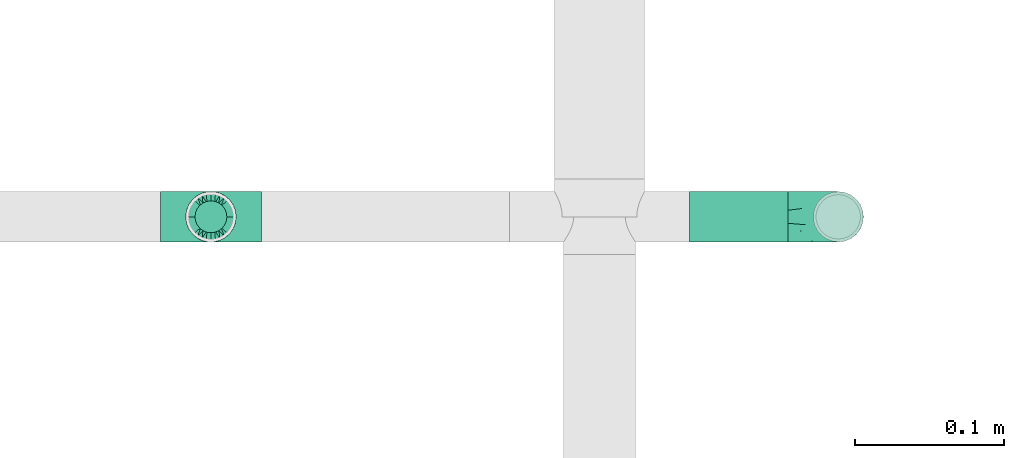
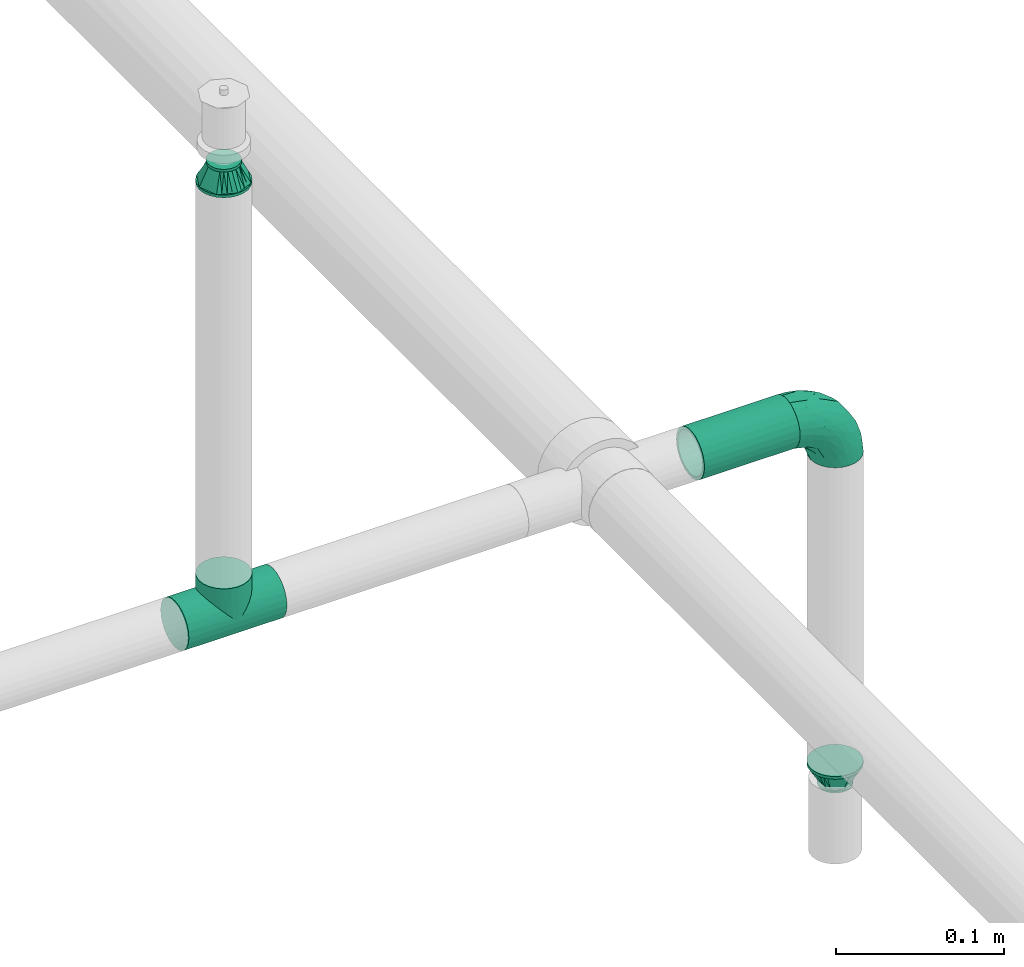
# One storey, part 100 of 157: 4 flow fittings, 1 flow segment.
"""IFC2X3 building model written with IfcOpenShell, lengths in millimetres."""

from ifc_helpers import new_model, entity, si_unit, converted_unit, derived_unit, direction, frame, origin_with_axes, origin_2d_with_axis, place, context, subcontext, project, spatial, hollow_circle, extrude, open_shell, surface_model, source, transform, mapped, type_object, element, save


model = new_model("IFC2X3")

# Units and contexts
model_context = context("Model", 3, precision=0.01, world=frame((0.0, 4.29681676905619e-09, 0.0)), true_north=direction((4.01073788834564e-13, 1.0)))
plan_context = context("Plan", 3, precision=0.01, world=frame((0.0, 4.29681676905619e-09, 0.0)), true_north=direction((4.01073788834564e-13, 1.0)))
body_context = subcontext(model_context, "Body", "Model", "MODEL_VIEW")
ifc_project = project(units=[converted_unit("PLANEANGLEUNIT", "DEGREE", entity("IfcPositiveLengthMeasure", 0.0174532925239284), si_unit("PLANEANGLEUNIT", "RADIAN"), dimensions=[0, 0, 0, 0, 0, 0, 0]), si_unit("AREAUNIT", "SQUARE_METRE"), si_unit("LENGTHUNIT", "METRE", prefix="MILLI"), si_unit("MASSUNIT", "GRAM", prefix="KILO"), si_unit("POWERUNIT", "WATT"), si_unit("PRESSUREUNIT", "PASCAL"), si_unit("FORCEUNIT", "NEWTON", prefix="KILO"), si_unit("ELECTRICCURRENTUNIT", "AMPERE"), si_unit("THERMODYNAMICTEMPERATUREUNIT", "DEGREE_CELSIUS"), si_unit("TIMEUNIT", "SECOND"), si_unit("VOLUMEUNIT", "CUBIC_METRE"), derived_unit("LINEARVELOCITYUNIT", [(si_unit("LENGTHUNIT", "METRE"), 1), (si_unit("TIMEUNIT", "SECOND"), -1)]), derived_unit("VOLUMETRICFLOWRATEUNIT", [(si_unit("VOLUMEUNIT", "CUBIC_METRE"), 1), (si_unit("TIMEUNIT", "SECOND"), -1)]), derived_unit("THERMALTRANSMITTANCEUNIT", [(si_unit("POWERUNIT", "WATT"), 1), (si_unit("THERMODYNAMICTEMPERATUREUNIT", "KELVIN"), -1), (si_unit("AREAUNIT", "SQUARE_METRE"), -1)])], contexts=[model_context, plan_context])

# Site, building, storey
site_placement = place(None, frame((0.0, -4.29681676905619e-09, 0.0), z_axis=(0.0, 0.0, 1.0), x_axis=(1.0, 0.0, 0.0)))
site = spatial("IfcSite", under=ifc_project, at=site_placement, CompositionType="ELEMENT")
building_placement = place(site_placement, frame((0.0, 4.29681676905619e-09, 0.0), z_axis=(0.0, 0.0, 1.0), x_axis=(1.0, 0.0, 0.0)))
building = spatial("IfcBuilding", under=site, at=building_placement, Name="mc-building", CompositionType="ELEMENT")
storey_placement = place(building_placement, frame((0.0, 0.0, 204000.0), z_axis=(0.0, 0.0, 1.0), x_axis=(1.0, 0.0, 0.0)))
storey = spatial("IfcBuildingStorey", under=building, at=storey_placement, Name="Nivå D", CompositionType="ELEMENT", Elevation=204000.0)

# Flow fittings
pipe_fitting_type_1 = type_object("IfcPipeFittingType", Name="magi_pipe_fe_tee_centric_90_NOR", PredefinedType="JUNCTION")
shared_shape_1 = source(origin_with_axes(), body_context, "Body", "SurfaceModel", [
    surface_model("IfcShellBasedSurfaceModel", [(-33.8, 4.37404, -16.32415), (-33.8, 0.0, -16.9), (-33.8, 16.32415, -4.37404), (-33.8, 8.45, -14.63583), (-33.8, 11.9501, -11.9501), (-33.8, 14.63583, -8.45), (-33.8, -16.9, 0.0), (-33.8, -11.9501, -11.9501), (-33.8, -14.63583, -8.45), (-33.8, -8.45, -14.63583), (-33.8, -4.37404, -16.32415), (-33.8, -16.32415, -4.37404), (-33.8, 14.63583, 8.45), (-33.8, 16.32415, 4.37404), (-33.8, -8.45, 14.63583), (-33.8, 8.45, 14.63583), (-33.8, 11.9501, 11.9501), (-33.8, 4.37404, 16.32415), (-33.8, 0.0, 16.9), (-33.8, -11.9501, 11.9501), (-33.8, -14.63583, 8.45), (-33.8, -16.32415, 4.37404), (-33.8, -4.37404, 16.32415), (-33.8, 16.9, 0.0), (33.8, 4.37404, -16.32415), (33.8, -16.9, 0.0), (33.8, 0.0, -16.9), (33.8, 14.63583, -8.45), (33.8, 8.45, -14.63583), (33.8, 16.32415, -4.37404), (33.8, 11.9501, -11.9501), (33.8, -16.32415, 4.37404), (33.8, -8.45, -14.63583), (33.8, -4.37404, -16.32415), (33.8, -11.9501, -11.9501), (33.8, -14.63583, -8.45), (33.8, -16.32415, -4.37404), (33.8, 16.32415, 4.37404), (33.8, 8.45, 14.63583), (33.8, 14.63583, 8.45), (33.8, 11.9501, 11.9501), (33.8, -8.45, 14.63583), (33.8, 4.37404, 16.32415), (33.8, -14.63583, 8.45), (33.8, -11.9501, 11.9501), (33.8, 0.0, 16.9), (33.8, -4.37404, 16.32415), (33.8, 16.9, 0.0), (16.28698, -16.28698, 4.51047), (16.9, -16.9, 0.0), (14.62704, -14.62704, 8.4652), (9.47213, -9.47213, 13.99602), (12.26343, -12.26343, 11.62834), (-16.9, -16.9, 0.0), (-16.28698, -16.28698, 4.51047), (-14.62704, -14.62704, 8.4652), (-12.26343, -12.26343, 11.62834), (-9.47213, -9.47213, 13.99602), (-6.42894, -6.42894, 15.62942), (6.42894, -6.42894, 15.62942), (3.24522, -3.24522, 16.58549), (0.0, 0.0, 16.9), (-3.24522, -3.24522, 16.58549), (3.24522, -3.24522, -16.58549), (0.0, 0.0, -16.9), (-3.24522, -3.24522, -16.58549), (-6.42894, -6.42894, -15.62942), (6.42894, -6.42894, -15.62942), (9.47213, -9.47213, -13.99602), (12.26343, -12.26343, -11.62834), (14.62704, -14.62704, -8.4652), (16.28698, -16.28698, -4.51047), (-9.47213, -9.47213, -13.99602), (-12.26343, -12.26343, -11.62834), (-16.28698, -16.28698, -4.51047), (-14.62704, -14.62704, -8.4652), (4.37404, -25.35, -16.32415), (-16.9, -25.35, 0.0), (0.0, -25.35, -16.9), (14.63583, -25.35, -8.45), (8.45, -25.35, -14.63583), (16.32415, -25.35, -4.37404), (11.9501, -25.35, -11.9501), (-11.9501, -25.35, -11.9501), (-8.45, -25.35, -14.63583), (-4.37404, -25.35, -16.32415), (-14.63583, -25.35, -8.45), (-16.32415, -25.35, -4.37404), (16.9, -25.35, 0.0), (8.45, -25.35, 14.63583), (16.32415, -25.35, 4.37404), (14.63583, -25.35, 8.45), (-8.45, -25.35, 14.63583), (11.9501, -25.35, 11.9501), (4.37404, -25.35, 16.32415), (-16.32415, -25.35, 4.37404), (-11.9501, -25.35, 11.9501), (-14.63583, -25.35, 8.45), (0.0, -25.35, 16.9), (-4.37404, -25.35, 16.32415)], [open_shell([[[0, 1, 2]], [[3, 0, 4]], [[0, 2, 5]], [[4, 0, 5]], [[6, 2, 1]], [[7, 8, 9]], [[1, 10, 9]], [[11, 6, 8]], [[1, 9, 8]], [[1, 8, 6]], [[6, 12, 2]], [[12, 13, 2]], [[14, 12, 6]], [[12, 14, 15]], [[16, 12, 15]], [[17, 15, 18]], [[19, 14, 20]], [[21, 20, 14]], [[22, 18, 14]], [[14, 6, 21]], [[14, 18, 15]], [[23, 2, 13]], [[24, 25, 26]], [[27, 24, 28]], [[27, 29, 24]], [[27, 28, 30]], [[31, 25, 24]], [[26, 32, 33]], [[26, 34, 32]], [[35, 25, 36]], [[35, 34, 26]], [[25, 35, 26]], [[24, 29, 31]], [[29, 37, 38]], [[38, 37, 39]], [[38, 31, 29]], [[38, 39, 40]], [[41, 38, 42]], [[43, 41, 44]], [[41, 43, 31]], [[41, 45, 46]], [[41, 31, 38]], [[42, 45, 41]], [[29, 47, 37]], [[31, 43, 48]], [[25, 31, 49]], [[49, 31, 48]], [[43, 50, 48]], [[44, 41, 51]], [[50, 43, 52]], [[51, 52, 44]], [[52, 43, 44]], [[53, 54, 21]], [[53, 21, 6]], [[21, 54, 20]], [[54, 55, 20]], [[56, 57, 19]], [[19, 20, 56]], [[19, 57, 14]], [[56, 20, 55]], [[14, 57, 58]], [[51, 41, 59]], [[60, 45, 61]], [[59, 46, 60]], [[46, 59, 41]], [[60, 46, 45]], [[61, 45, 42]], [[39, 37, 13]], [[16, 38, 40]], [[12, 40, 39]], [[42, 38, 15]], [[23, 37, 47]], [[62, 61, 18]], [[62, 22, 58]], [[22, 62, 18]], [[58, 22, 14]], [[61, 17, 18]], [[42, 17, 61]], [[15, 17, 42]], [[15, 38, 16]], [[12, 16, 40]], [[13, 12, 39]], [[37, 23, 13]], [[5, 27, 30]], [[23, 47, 29]], [[30, 28, 3]], [[27, 2, 29]], [[26, 33, 63]], [[26, 64, 24]], [[64, 26, 63]], [[28, 24, 0]], [[64, 0, 24]], [[4, 30, 3]], [[2, 27, 5]], [[5, 30, 4]], [[2, 23, 29]], [[65, 66, 10]], [[1, 0, 64]], [[1, 65, 10]], [[66, 9, 10]], [[0, 3, 28]], [[1, 64, 65]], [[63, 33, 67]], [[32, 34, 68]], [[69, 68, 34]], [[35, 70, 69]], [[69, 34, 35]], [[32, 68, 67]], [[36, 25, 49]], [[36, 71, 35]], [[71, 36, 49]], [[35, 71, 70]], [[72, 9, 66]], [[72, 7, 9]], [[7, 72, 73]], [[7, 73, 8]], [[74, 53, 11]], [[75, 74, 8]], [[74, 11, 8]], [[11, 53, 6]], [[75, 8, 73]], [[32, 67, 33]], [[76, 77, 78]], [[79, 76, 80]], [[79, 81, 76]], [[79, 80, 82]], [[77, 76, 81]], [[78, 83, 84]], [[84, 85, 78]], [[86, 77, 87]], [[83, 78, 86]], [[77, 86, 78]], [[81, 88, 77]], [[89, 88, 90]], [[89, 90, 91]], [[92, 77, 89]], [[89, 91, 93]], [[92, 89, 94]], [[95, 96, 97]], [[96, 95, 92]], [[92, 98, 99]], [[95, 77, 92]], [[94, 98, 92]], [[89, 77, 88]], [[77, 95, 53]], [[54, 53, 95]], [[97, 96, 56]], [[96, 92, 57]], [[95, 97, 54]], [[58, 92, 99]], [[55, 54, 97]], [[56, 55, 97]], [[58, 57, 92]], [[98, 61, 62]], [[58, 99, 62]], [[56, 96, 57]], [[62, 99, 98]], [[94, 60, 98]], [[89, 59, 94]], [[91, 90, 48]], [[52, 93, 91]], [[93, 51, 89]], [[49, 90, 88]], [[59, 60, 94]], [[51, 59, 89]], [[49, 48, 90]], [[50, 52, 91]], [[48, 50, 91]], [[51, 93, 52]], [[98, 60, 61]], [[88, 81, 49]], [[71, 49, 81]], [[79, 82, 69]], [[82, 80, 68]], [[81, 79, 71]], [[67, 80, 76]], [[70, 71, 79]], [[69, 70, 79]], [[67, 68, 80]], [[78, 64, 63]], [[67, 76, 63]], [[69, 82, 68]], [[63, 76, 78]], [[85, 65, 78]], [[84, 66, 85]], [[86, 87, 74]], [[86, 73, 83]], [[72, 84, 83]], [[53, 87, 77]], [[66, 65, 85]], [[72, 66, 84]], [[53, 74, 87]], [[75, 73, 86]], [[74, 75, 86]], [[72, 83, 73]], [[78, 65, 64]]])]),
])
flow_fitting_1_placement = place(storey_placement, frame((530839.775, 410800.0, 2690.0), z_axis=(0.0, 1.0, 0.0), x_axis=(1.0, 0.0, 0.0)))
element("IfcFlowFitting", 1, at=flow_fitting_1_placement, inside=storey, type_object=pipe_fitting_type_1, Name="magi_pipe_fe_tee_centric_90_NOR", context=body_context, shape_type="MappedRepresentation", body=[
    mapped(shared_shape_1, transform((0.0, 0.0, 0.0), scale=1.0)),
])
pipe_fitting_type_2 = type_object("IfcPipeFittingType", Name="magi_pipe_fe_reducer_centric_short_NOR", PredefinedType="TRANSITION")
shared_shape_2 = source(origin_with_axes(), body_context, "Body", "SurfaceModel", [
    surface_model("IfcShellBasedSurfaceModel", [(14.4, 5.35, -9.26647), (14.4, 0.0, -10.7), (14.4, 2.76936, -10.33541), (14.4, 10.33541, -2.76936), (14.4, 7.56604, -7.56604), (14.4, -10.33541, -2.76936), (14.4, 9.26647, -5.35), (14.4, 0.0, 10.7), (14.4, -5.35, -9.26647), (14.4, -2.76936, -10.33541), (14.4, -7.56604, -7.56604), (14.4, -9.26647, -5.35), (14.4, 10.7, 0.0), (14.4, 10.33541, 2.76936), (14.4, 9.26647, 5.35), (14.4, 7.56604, 7.56604), (14.4, 2.76936, 10.33541), (14.4, 5.35, 9.26647), (14.4, -10.33541, 2.76936), (14.4, -7.56604, 7.56604), (14.4, -9.26647, 5.35), (14.4, -10.7, 0.0), (14.4, -2.76936, 10.33541), (14.4, -5.35, 9.26647), (12.4, 2.76936, 10.33541), (12.4, -10.33541, -2.76936), (12.4, 0.0, 10.7), (12.4, 5.35, 9.26647), (12.4, 7.56604, 7.56604), (12.4, 9.26647, 5.35), (12.4, 10.33541, 2.76936), (12.4, -10.33541, 2.76936), (12.4, -2.76936, 10.33541), (12.4, -7.56604, 7.56604), (12.4, -5.35, 9.26647), (12.4, -9.26647, 5.35), (12.4, -10.7, 0.0), (12.4, 10.33541, -2.76936), (12.4, 5.35, -9.26647), (12.4, 9.26647, -5.35), (12.4, 7.56604, -7.56604), (12.4, 2.76936, -10.33541), (12.4, -9.26647, -5.35), (12.4, -5.35, -9.26647), (12.4, -7.56604, -7.56604), (12.4, 0.0, -10.7), (12.4, -2.76936, -10.33541), (12.4, 10.7, 0.0), (-2.0, 11.9501, 11.9501), (-2.0, 0.0, 16.9), (-2.0, 4.37404, 16.32415), (-2.0, 8.45, 14.63583), (-2.0, 14.63583, 8.45), (-2.0, 16.32415, 4.37404), (-2.0, -16.32415, 4.37404), (-2.0, -8.45, 14.63583), (-2.0, -14.63583, 8.45), (-2.0, -11.9501, 11.9501), (-2.0, -4.37404, 16.32415), (-2.0, -16.32415, -4.37404), (-2.0, -16.9, 0.0), (-2.0, -8.45, -14.63583), (-2.0, 16.32415, -4.37404), (-2.0, 11.9501, -11.9501), (-2.0, 14.63583, -8.45), (-2.0, 8.45, -14.63583), (-2.0, 4.37404, -16.32415), (-2.0, 0.0, -16.9), (-2.0, -11.9501, -11.9501), (-2.0, -14.63583, -8.45), (-2.0, -4.37404, -16.32415), (-2.0, 16.9, 0.0), (0.0, 4.37404, -16.32415), (0.0, 8.45, -14.63583), (0.0, 11.9501, -11.9501), (0.0, 0.0, -16.9), (0.0, 16.32415, -4.37404), (0.0, 16.32415, 4.37404), (0.0, 14.63583, -8.45), (0.0, -8.45, -14.63583), (0.0, -4.37404, -16.32415), (0.0, -11.9501, -11.9501), (0.0, -16.32415, -4.37404), (0.0, -14.63583, -8.45), (0.0, -16.32415, 4.37404), (0.0, 16.9, 0.0), (0.0, 14.63583, 8.45), (0.0, 11.9501, 11.9501), (0.0, 4.37404, 16.32415), (0.0, 8.45, 14.63583), (0.0, 0.0, 16.9), (0.0, -14.63583, 8.45), (0.0, -16.9, 0.0), (0.0, -8.45, 14.63583), (0.0, -11.9501, 11.9501), (0.0, -4.37404, 16.32415), (12.4, 9.3625, -2.31662), (0.0, 14.42505, -5.97505), (0.0, 15.66253, -2.98753), (12.4, -6.6875, -6.94985), (0.0, -13.18758, -8.96258), (0.0, 2.98753, -15.66253), (12.4, 0.0, -9.26647), (12.4, 6.6875, -6.94985), (0.0, 8.96258, -13.18758), (12.4, -9.3625, -2.31662), (0.0, -15.66253, -2.98753), (0.0, -14.42505, -5.97505), (0.0, 5.97505, -14.42505), (0.0, -2.98753, -15.66253), (0.0, -8.96258, -13.18758), (0.0, 13.18758, -8.96258), (12.4, 8.025, -4.63324), (12.4, -2.675, -9.26647), (12.4, 2.675, -9.26647), (0.0, -5.97505, -14.42505), (12.4, -8.025, -4.63324), (12.4, -9.3625, 2.31662), (0.0, -14.42505, 5.97505), (0.0, -15.66253, 2.98753), (12.4, 6.6875, 6.94985), (0.0, 13.18758, 8.96258), (0.0, -2.98753, 15.66253), (12.4, 0.0, 9.26647), (12.4, -6.6875, 6.94985), (0.0, -8.96258, 13.18758), (12.4, 9.3625, 2.31662), (0.0, 15.66253, 2.98753), (0.0, 14.42505, 5.97505), (0.0, -5.97505, 14.42505), (0.0, 2.98753, 15.66253), (0.0, 8.96258, 13.18758), (0.0, -13.18758, 8.96258), (12.4, -8.025, 4.63324), (12.4, 2.675, 9.26647), (12.4, -2.675, 9.26647), (0.0, 5.97505, 14.42505), (12.4, 8.025, 4.63324)], [open_shell([[[0, 1, 2]], [[3, 0, 4]], [[5, 0, 3]], [[3, 4, 6]], [[7, 5, 3]], [[1, 8, 9]], [[1, 0, 8]], [[10, 5, 11]], [[5, 10, 8]], [[0, 5, 8]], [[3, 12, 13]], [[13, 14, 15]], [[13, 15, 16]], [[7, 3, 16]], [[16, 15, 17]], [[7, 18, 5]], [[18, 19, 20]], [[21, 5, 18]], [[19, 22, 23]], [[22, 19, 18]], [[7, 22, 18]], [[13, 16, 3]], [[24, 25, 26]], [[27, 25, 24]], [[28, 29, 30]], [[28, 25, 27]], [[31, 26, 25]], [[32, 33, 34]], [[33, 32, 31]], [[33, 31, 35]], [[32, 26, 31]], [[31, 25, 36]], [[30, 37, 28]], [[25, 28, 37]], [[38, 37, 39]], [[37, 38, 25]], [[38, 39, 40]], [[41, 25, 38]], [[42, 43, 44]], [[43, 42, 25]], [[43, 45, 46]], [[43, 25, 41]], [[41, 45, 43]], [[37, 30, 47]], [[25, 5, 36]], [[42, 11, 25]], [[8, 44, 43]], [[42, 44, 10]], [[9, 43, 46]], [[25, 11, 5]], [[5, 21, 36]], [[9, 8, 43]], [[10, 44, 8]], [[10, 11, 42]], [[1, 9, 46]], [[46, 45, 1]], [[41, 2, 45]], [[38, 0, 41]], [[6, 40, 39]], [[38, 40, 4]], [[3, 39, 37]], [[38, 4, 0]], [[0, 2, 41]], [[12, 3, 37]], [[6, 39, 3]], [[6, 4, 40]], [[47, 12, 37]], [[45, 2, 1]], [[30, 13, 47]], [[29, 14, 30]], [[17, 28, 27]], [[29, 28, 15]], [[16, 27, 24]], [[30, 14, 13]], [[13, 12, 47]], [[16, 17, 27]], [[15, 28, 17]], [[15, 14, 29]], [[7, 16, 24]], [[24, 26, 7]], [[32, 22, 26]], [[34, 23, 32]], [[20, 33, 35]], [[34, 33, 19]], [[18, 35, 31]], [[34, 19, 23]], [[23, 22, 32]], [[21, 18, 31]], [[20, 35, 18]], [[20, 19, 33]], [[36, 21, 31]], [[26, 22, 7]], [[48, 49, 50]], [[48, 50, 51]], [[48, 52, 53]], [[48, 53, 49]], [[49, 53, 54]], [[55, 56, 57]], [[55, 58, 49]], [[56, 55, 49]], [[49, 54, 56]], [[54, 59, 60]], [[54, 53, 61]], [[53, 62, 63]], [[63, 62, 64]], [[63, 65, 66]], [[61, 53, 63]], [[67, 63, 66]], [[59, 68, 69]], [[68, 59, 61]], [[61, 67, 70]], [[59, 54, 61]], [[63, 67, 61]], [[53, 71, 62]], [[72, 73, 74]], [[75, 72, 74]], [[74, 76, 77]], [[76, 74, 78]], [[74, 77, 79]], [[75, 79, 80]], [[75, 74, 79]], [[81, 82, 83]], [[82, 81, 79]], [[79, 84, 82]], [[77, 76, 85]], [[77, 86, 87]], [[77, 87, 88]], [[88, 84, 79]], [[88, 87, 89]], [[84, 88, 90]], [[90, 91, 84]], [[92, 82, 84]], [[91, 93, 94]], [[91, 90, 93]], [[93, 90, 95]], [[79, 77, 88]], [[59, 82, 60]], [[69, 83, 59]], [[79, 68, 61]], [[69, 68, 81]], [[80, 61, 70]], [[59, 83, 82]], [[82, 92, 60]], [[80, 79, 61]], [[81, 68, 79]], [[81, 83, 69]], [[75, 80, 70]], [[70, 67, 75]], [[66, 72, 67]], [[65, 73, 66]], [[78, 63, 64]], [[65, 63, 74]], [[76, 64, 62]], [[65, 74, 73]], [[73, 72, 66]], [[85, 76, 62]], [[78, 64, 76]], [[78, 74, 63]], [[71, 85, 62]], [[67, 72, 75]], [[53, 77, 71]], [[52, 86, 53]], [[89, 48, 51]], [[52, 48, 87]], [[88, 51, 50]], [[53, 86, 77]], [[77, 85, 71]], [[88, 89, 51]], [[87, 48, 89]], [[87, 86, 52]], [[90, 88, 50]], [[50, 49, 90]], [[58, 95, 49]], [[55, 93, 58]], [[91, 57, 56]], [[55, 57, 94]], [[84, 56, 54]], [[55, 94, 93]], [[93, 95, 58]], [[92, 84, 54]], [[91, 56, 84]], [[91, 94, 57]], [[60, 92, 54]], [[49, 95, 90]], [[27, 34, 47]], [[47, 34, 43]], [[43, 38, 47]], [[43, 34, 36]], [[90, 87, 94]], [[92, 94, 87]], [[87, 74, 92]], [[75, 92, 74]], [[81, 92, 75]], [[74, 87, 85]], [[96, 97, 98]], [[81, 99, 100]], [[101, 102, 75]], [[98, 85, 47]], [[74, 103, 104]], [[104, 103, 38]], [[105, 106, 107]], [[38, 108, 104]], [[102, 109, 75]], [[110, 99, 81]], [[47, 96, 98]], [[103, 111, 112]], [[109, 102, 113]], [[36, 92, 106]], [[102, 101, 114]], [[110, 115, 43]], [[96, 112, 97]], [[107, 116, 105]], [[36, 106, 105]], [[113, 115, 109]], [[43, 115, 113]], [[116, 107, 100]], [[108, 38, 114]], [[111, 103, 74]], [[111, 97, 112]], [[99, 110, 43]], [[116, 100, 99]], [[101, 108, 114]], [[117, 118, 119]], [[87, 120, 121]], [[122, 123, 90]], [[119, 92, 36]], [[94, 124, 125]], [[125, 124, 34]], [[126, 127, 128]], [[34, 129, 125]], [[123, 130, 90]], [[131, 120, 87]], [[36, 117, 119]], [[124, 132, 133]], [[130, 123, 134]], [[47, 85, 127]], [[123, 122, 135]], [[131, 136, 27]], [[117, 133, 118]], [[128, 137, 126]], [[47, 127, 126]], [[134, 136, 130]], [[27, 136, 134]], [[137, 128, 121]], [[129, 34, 135]], [[132, 124, 94]], [[132, 118, 133]], [[120, 131, 27]], [[137, 121, 120]], [[122, 129, 135]]])]),
])
for number, where, z_axis, x_axis, name in (
    (2, (531260.79653, 410800.0, 2429.35200000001), (1.0, 0.0, 0.0), (0.0, 0.0, -1.0), "magi_pipe_fe_reducer_centric_short_NOR"),
    (3, (530839.775, 410800.0, 3002.14799999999), (0.0, -1.0, 0.0), (0.0, 0.0, 1.0), "magi_pipe_fe_reducer_centric_short_NOR"),
):
    element("IfcFlowFitting", number, at=place(storey_placement, frame(where, z_axis=z_axis, x_axis=x_axis)), inside=storey, type_object=pipe_fitting_type_2, Name=name, context=body_context, shape_type="MappedRepresentation", body=[
        mapped(shared_shape_2, transform((0.0, 0.0, 0.0), scale=1.0)),
    ])
pipe_fitting_type_3 = type_object("IfcPipeFittingType", Name="magi_pipe_fe_elbow_short_001", PredefinedType="BEND")
shared_shape_3 = source(origin_with_axes(), body_context, "Body", "SurfaceModel", [
    surface_model("IfcShellBasedSurfaceModel", [(-33.8, 8.45, -14.63583), (-33.8, 4.37404, -16.32415), (-33.8, 11.9501, -11.9501), (-33.8, -11.9501, -11.9501), (-33.8, -14.63583, -8.45), (-33.8, -8.45, -14.63583), (-33.8, 0.0, -16.9), (-33.8, -4.37404, -16.32415), (-33.8, -4.37404, 16.32415), (-33.8, 0.0, 16.9), (-33.8, -8.45, 14.63583), (-33.8, 16.32415, -4.37404), (-33.8, 14.63583, -8.45), (-33.8, -16.32415, -4.37404), (-33.8, -16.9, 0.0), (-33.8, -16.32415, 4.37404), (-33.8, 11.9501, 11.9501), (-33.8, 14.63583, 8.45), (-33.8, 16.32415, 4.37404), (-33.8, 4.37404, 16.32415), (-33.8, 8.45, 14.63583), (-33.8, -14.63583, 8.45), (-33.8, -11.9501, 11.9501), (-33.8, 16.9, 0.0), (-11.9501, 33.8, -11.9501), (0.0, 33.8, -16.9), (-4.37404, 33.8, -16.32415), (-8.45, 33.8, -14.63583), (-14.63583, 33.8, -8.45), (-16.32415, 33.8, -4.37404), (14.63583, 33.8, -8.45), (8.45, 33.8, 14.63583), (16.32415, 33.8, -4.37404), (8.45, 33.8, -14.63583), (11.9501, 33.8, -11.9501), (4.37404, 33.8, -16.32415), (16.32415, 33.8, 4.37404), (16.9, 33.8, 0.0), (-11.9501, 33.8, 11.9501), (-16.32415, 33.8, 4.37404), (-14.63583, 33.8, 8.45), (-8.45, 33.8, 14.63583), (-4.37404, 33.8, 16.32415), (11.9501, 33.8, 11.9501), (14.63583, 33.8, 8.45), (0.0, 33.8, 16.9), (4.37404, 33.8, 16.32415), (-16.9, 33.8, 0.0), (-24.79389, -13.12945, 9.48721), (-22.19287, -9.75018, 12.59315), (-24.09897, -14.97035, 0.0), (-14.93934, -10.76256, 8.5297), (-22.46095, -14.75051, 5.27077), (14.75051, 22.46094, 5.27077), (11.9251, 13.23888, 4.33236), (13.04069, 14.39795, 0.0), (7.71387, 13.68847, 11.55891), (9.75018, 22.19287, 12.59315), (4.10169, 13.0571, 14.04018), (-24.84007, -6.39063, 15.2048), (-25.81779, -2.23879, 16.61097), (-23.66549, 2.59054, 16.87119), (-26.50418, 14.06512, 11.08152), (-24.21253, 17.66365, 7.72657), (-29.58514, 15.86957, 7.00283), (-6.17382, -7.5455, 0.0), (-13.23888, -11.9251, 4.33236), (-14.39795, -13.04069, 0.0), (-17.81434, 18.87373, 11.97104), (-6.30846, 29.15138, 15.82987), (-2.31622, 25.28002, 16.85849), (-29.23923, 10.23435, 13.77053), (-1.45439, -2.85688, 7.61475), (-0.28326, 0.34872, 10.09509), (-5.74484, -4.04709, 10.4122), (-4.41137, 11.31918, 16.59407), (-8.39727, 3.10034, 15.7812), (-1.72649, 9.1306, 15.53089), (-17.39909, 24.75344, 7.64977), (-26.19233, 20.0512, 0.0), (-28.14518, 17.29657, 4.25857), (-26.05147, 6.6281, 15.96447), (-5.87354, 16.61944, 16.86968), (-12.51807, 12.51807, 16.48937), (-10.06312, 7.38516, 16.81295), (-3.01882, 3.01882, 13.81718), (-13.0571, -4.10169, 14.04018), (-16.82553, -0.15166, 16.38038), (10.76256, 14.93934, 8.5297), (13.12945, 24.79389, 9.48721), (6.39063, 24.84007, 15.2048), (2.23879, 25.81779, 16.61097), (-13.68847, -7.71387, 11.55891), (14.97035, 24.09897, 0.0), (-7.30894, 22.89991, 16.09489), (-10.67958, 26.17414, 14.008), (-12.78295, 18.26924, 15.06066), (-13.88562, 22.45231, 12.93244), (-18.04944, 15.16501, 14.04434), (-23.11658, 20.08178, 4.02986), (-21.84989, 21.84989, 0.0), (-18.55817, 25.48277, 3.93065), (-13.95142, 26.94732, 11.03289), (-18.57098, 7.23906, 16.59756), (-16.58335, 4.14122, 16.89279), (-17.96666, 11.46709, 15.63151), (-9.84453, 17.54304, 16.18938), (0.15166, 16.82553, 16.38038), (-23.27207, 11.47201, 14.23154), (3.84842, 5.86994, 10.70473), (-8.0212, -7.54413, 7.93275), (1.00345, -2.19508, 4.57414), (5.13203, 3.01004, 5.90201), (5.24161, 1.7543, 2.53265), (8.70457, 7.04947, 3.99182), (-20.0512, 26.19233, 0.0), (8.4852, 8.76699, 7.09296), (-4.55488, -6.72064, 4.90681), (2.05031, -2.05031, 0.0), (7.5455, 6.17382, 0.0), (-26.75399, 2.1369, -16.845), (-14.61995, 24.73803, -11.27736), (-28.45274, -13.45335, -9.81895), (-26.00469, 6.63555, -15.96645), (-23.06726, 20.04573, -4.26202), (-13.80647, -4.26506, -14.17873), (-14.67501, -0.21081, -16.07388), (-6.7902, -0.2828, -13.8478), (-24.53586, 11.08096, -14.13417), (-26.72048, 14.00837, -11.05776), (10.0967, 24.44989, -12.75976), (5.83237, 21.40218, -15.03047), (6.66249, 28.54238, -15.38093), (-20.38182, 15.48705, -12.74596), (12.53268, 21.23441, -9.15363), (12.54494, 15.67504, -5.54878), (9.7522, 12.89279, -8.66343), (-15.65186, 19.64213, -13.01327), (-12.03528, 20.66498, -14.67665), (-15.61907, 15.61906, -14.83879), (-25.56551, -15.26206, 0.0), (-24.65452, -15.12934, -5.50955), (13.45335, 28.45274, -9.81895), (15.12934, 24.65452, -5.50955), (-7.35442, -8.31014, -5.65563), (-15.67504, -12.54494, -5.54878), (-24.44989, -10.0967, -12.75976), (0.16522, 0.41303, -9.71728), (-5.70658, -5.33066, -8.89288), (-5.13869, -2.37198, -11.53565), (-21.23441, -12.53268, -9.15363), (0.71146, 7.93863, -14.09382), (0.21081, 14.67501, -16.07388), (3.49291, 14.42772, -14.76381), (-24.89911, -2.13088, -16.591), (-28.54238, -6.66249, -15.38093), (-18.44386, -7.71663, -13.26957), (2.13088, 24.89911, -16.591), (-28.64342, 17.44413, -2.89318), (1.70017, -1.28722, -5.09504), (-16.57067, 26.81947, -7.36596), (-17.69055, 27.4263, -3.76405), (-12.89279, -9.7522, -8.66343), (-5.96611, 5.96611, -15.95814), (-20.53709, 20.09345, -8.28985), (-2.1369, 26.75399, -16.845), (-6.89872, 24.58781, -16.02578), (-10.60739, 26.53157, -13.98044), (-21.40218, -5.83237, -15.03047), (2.93192, 5.89627, -11.55917), (6.89393, 12.61842, -11.82233), (5.58056, 5.95325, -8.79455), (-3.99512, 18.61798, -16.89635), (8.31014, 7.35442, -5.65563), (-9.1383, 9.86148, -16.89041), (-9.99983, 16.02119, -16.39699), (-16.68576, 9.78031, -16.34199), (-27.01915, 16.61158, -7.12979), (15.26206, 25.56551, 0.0), (-18.61798, 3.99512, -16.89635), (-19.37495, 27.82495, 0.0), (-12.61842, -6.89393, -11.82233), (-18.84705, 19.14018, -10.96545)], [open_shell([[[0, 1, 2]], [[3, 4, 5]], [[6, 7, 5]], [[8, 9, 10]], [[1, 6, 2]], [[11, 12, 2]], [[4, 2, 6]], [[2, 13, 10]], [[5, 4, 6]], [[2, 4, 13]], [[14, 15, 13]], [[11, 2, 16]], [[11, 17, 18]], [[11, 16, 17]], [[19, 20, 16]], [[16, 2, 10]], [[19, 16, 10]], [[21, 22, 15]], [[22, 13, 15]], [[22, 10, 13]], [[10, 9, 19]], [[11, 18, 23]], [[24, 25, 26]], [[24, 26, 27]], [[24, 28, 29]], [[25, 24, 30]], [[31, 32, 24]], [[33, 30, 34]], [[33, 35, 25]], [[25, 30, 33]], [[32, 30, 24]], [[32, 36, 37]], [[38, 24, 29]], [[39, 40, 29]], [[40, 38, 29]], [[38, 41, 42]], [[38, 31, 24]], [[31, 38, 42]], [[36, 43, 44]], [[36, 32, 43]], [[31, 45, 46]], [[32, 31, 43]], [[42, 45, 31]], [[39, 29, 47]], [[22, 48, 49]], [[15, 14, 50]], [[51, 48, 52]], [[53, 54, 55]], [[48, 22, 21]], [[15, 52, 21]], [[56, 57, 58]], [[49, 10, 22]], [[49, 59, 10]], [[9, 60, 61]], [[62, 63, 64]], [[65, 66, 67]], [[57, 43, 31]], [[62, 68, 63]], [[42, 69, 70]], [[20, 71, 16]], [[8, 60, 9]], [[72, 73, 74]], [[75, 76, 77]], [[16, 62, 17]], [[40, 39, 78]], [[79, 23, 80]], [[64, 18, 17]], [[9, 61, 19]], [[19, 81, 20]], [[82, 83, 84]], [[74, 85, 86]], [[59, 86, 87]], [[88, 89, 57]], [[90, 31, 46]], [[44, 53, 36]], [[46, 45, 91]], [[54, 53, 88]], [[44, 89, 53]], [[92, 86, 49]], [[89, 44, 43]], [[10, 59, 8]], [[53, 55, 93]], [[93, 36, 53]], [[66, 52, 67]], [[94, 82, 70]], [[95, 96, 94]], [[97, 98, 96]], [[79, 99, 100]], [[41, 38, 95]], [[101, 100, 99]], [[68, 78, 63]], [[42, 41, 69]], [[23, 18, 80]], [[95, 94, 69]], [[78, 101, 99]], [[38, 102, 95]], [[70, 45, 42]], [[97, 95, 102]], [[15, 50, 52]], [[90, 57, 31]], [[57, 90, 58]], [[81, 19, 61]], [[103, 104, 84]], [[105, 81, 103]], [[38, 40, 102]], [[106, 96, 83]], [[94, 106, 82]], [[91, 70, 107]], [[71, 62, 16]], [[62, 108, 98]], [[86, 59, 49]], [[67, 52, 50]], [[60, 59, 87]], [[92, 49, 51]], [[86, 85, 76]], [[91, 90, 46]], [[37, 36, 93]], [[107, 77, 58]], [[107, 58, 90]], [[58, 85, 109]], [[110, 74, 92]], [[72, 74, 110]], [[66, 51, 52]], [[72, 111, 112]], [[113, 114, 112]], [[56, 88, 57]], [[52, 48, 21]], [[49, 48, 51]], [[57, 89, 43]], [[53, 89, 88]], [[103, 81, 61]], [[71, 81, 108]], [[18, 64, 80]], [[63, 78, 99]], [[47, 115, 101]], [[101, 115, 100]], [[40, 78, 102]], [[68, 102, 78]], [[97, 96, 95]], [[105, 98, 108]], [[103, 84, 83]], [[107, 70, 82]], [[76, 84, 87]], [[82, 84, 75]], [[70, 91, 45]], [[90, 91, 107]], [[59, 60, 8]], [[61, 60, 87]], [[73, 85, 74]], [[109, 112, 116]], [[103, 61, 104]], [[105, 103, 83]], [[96, 105, 83]], [[81, 105, 108]], [[96, 98, 105]], [[62, 98, 68]], [[61, 87, 104]], [[87, 84, 104]], [[86, 76, 87]], [[77, 76, 85]], [[58, 77, 85]], [[75, 77, 107]], [[82, 75, 107]], [[76, 75, 84]], [[81, 71, 20]], [[62, 71, 108]], [[95, 69, 41]], [[70, 69, 94]], [[62, 64, 17]], [[80, 63, 99]], [[63, 80, 64]], [[80, 99, 79]], [[66, 65, 117]], [[110, 66, 117]], [[112, 114, 116]], [[118, 117, 65]], [[110, 92, 51]], [[112, 111, 113]], [[119, 55, 54]], [[74, 86, 92]], [[58, 109, 56]], [[116, 56, 109]], [[66, 110, 51]], [[72, 110, 117]], [[111, 72, 117]], [[73, 112, 109]], [[117, 118, 111]], [[113, 111, 118]], [[118, 119, 113]], [[114, 119, 54]], [[119, 114, 113]], [[116, 54, 88]], [[54, 116, 114]], [[116, 88, 56]], [[112, 73, 72]], [[85, 73, 109]], [[78, 39, 101]], [[47, 101, 39]], [[102, 68, 97]], [[97, 68, 98]], [[82, 106, 83]], [[94, 96, 106]], [[1, 120, 6]], [[28, 24, 121]], [[3, 122, 4]], [[0, 123, 1]], [[100, 124, 79]], [[125, 126, 127]], [[128, 2, 129]], [[130, 131, 132]], [[128, 129, 133]], [[134, 135, 136]], [[137, 138, 139]], [[128, 0, 2]], [[67, 140, 141]], [[134, 142, 143]], [[141, 13, 4]], [[144, 65, 145]], [[146, 3, 5]], [[147, 148, 149]], [[145, 141, 150]], [[151, 152, 153]], [[154, 7, 6]], [[5, 155, 146]], [[150, 146, 156]], [[155, 5, 7]], [[143, 135, 134]], [[35, 157, 25]], [[23, 79, 158]], [[148, 159, 144]], [[160, 161, 29]], [[145, 162, 144]], [[163, 152, 151]], [[29, 28, 160]], [[121, 164, 160]], [[33, 34, 130]], [[25, 165, 26]], [[26, 165, 166]], [[142, 34, 30]], [[24, 27, 167]], [[124, 161, 164]], [[157, 35, 132]], [[155, 154, 168]], [[123, 0, 128]], [[169, 170, 171]], [[172, 157, 152]], [[26, 166, 27]], [[132, 35, 33]], [[142, 130, 34]], [[168, 154, 126]], [[136, 135, 173]], [[133, 137, 139]], [[2, 12, 129]], [[170, 131, 130]], [[30, 32, 143]], [[172, 174, 175]], [[176, 123, 128]], [[158, 177, 11]], [[135, 55, 119]], [[167, 27, 166]], [[175, 166, 172]], [[137, 167, 138]], [[122, 141, 4]], [[140, 14, 13]], [[32, 37, 178]], [[170, 130, 134]], [[152, 157, 131]], [[165, 157, 172]], [[153, 170, 151]], [[152, 163, 174]], [[168, 125, 156]], [[122, 146, 150]], [[120, 154, 6]], [[179, 174, 126]], [[179, 126, 154]], [[126, 163, 127]], [[162, 145, 150]], [[140, 13, 141]], [[32, 178, 143]], [[55, 143, 178]], [[177, 129, 12]], [[128, 133, 139]], [[176, 128, 139]], [[120, 123, 179]], [[121, 160, 28]], [[161, 100, 180]], [[166, 175, 138]], [[121, 24, 167]], [[161, 47, 29]], [[79, 124, 158]], [[124, 164, 177]], [[161, 124, 100]], [[136, 171, 170]], [[127, 163, 151]], [[147, 171, 159]], [[148, 144, 162]], [[127, 151, 169]], [[127, 181, 125]], [[129, 177, 164]], [[12, 11, 177]], [[159, 65, 144]], [[67, 141, 145]], [[143, 55, 135]], [[135, 119, 173]], [[123, 120, 1]], [[154, 120, 179]], [[157, 165, 25]], [[166, 165, 172]], [[172, 152, 174]], [[176, 139, 175]], [[126, 174, 163]], [[176, 174, 179]], [[174, 176, 175]], [[123, 176, 179]], [[150, 181, 162]], [[127, 149, 181]], [[181, 148, 162]], [[159, 148, 147]], [[171, 136, 173]], [[170, 134, 136]], [[159, 171, 173]], [[171, 147, 169]], [[169, 147, 149]], [[151, 170, 169]], [[164, 182, 129]], [[182, 121, 137]], [[181, 149, 148]], [[169, 149, 127]], [[182, 137, 133]], [[167, 137, 121]], [[166, 138, 167]], [[175, 139, 138]], [[129, 182, 133]], [[121, 182, 164]], [[161, 160, 164]], [[47, 161, 180]], [[177, 158, 124]], [[23, 158, 11]], [[130, 132, 33]], [[157, 132, 131]], [[143, 142, 30]], [[130, 142, 134]], [[154, 155, 7]], [[146, 155, 168]], [[146, 122, 3]], [[141, 122, 150]], [[152, 131, 153]], [[159, 119, 118]], [[67, 145, 65]], [[170, 153, 131]], [[119, 159, 173]], [[159, 118, 65]], [[156, 125, 181]], [[126, 125, 168]], [[150, 156, 181]], [[168, 156, 146]]])]),
])
flow_fitting_2_placement = place(storey_placement, frame((531260.79653, 410800.0, 2690.0), z_axis=(0.0, -1.0, 0.0), x_axis=(0.0, 0.0, 1.0)))
element("IfcFlowFitting", 4, at=flow_fitting_2_placement, inside=storey, type_object=pipe_fitting_type_3, Name="magi_pipe_fe_elbow_short_001", context=body_context, shape_type="MappedRepresentation", body=[
    mapped(shared_shape_3, transform((0.0, 0.0, 0.0), scale=1.0)),
])

# Flow segment
pipe_segment_type = type_object("IfcPipeSegmentType", Name="Stålrør normaltykke", PredefinedType="RIGIDSEGMENT")
shared_shape_4 = source(origin_with_axes(), body_context, "Body", "SweptSolid", [
    extrude(hollow_circle(Radius=16.9, WallThickness=2.0, at=origin_2d_with_axis()), frame((0.0, 0.0, 0.0), z_axis=(1.0, 0.0, 0.0), x_axis=(0.0, 1.0, 0.0)), (0.0, 0.0, 1.0), 65.9),
])
flow_segment_placement = place(storey_placement, frame((531226.99653, 410800.0, 2690.0), z_axis=(0.0, 0.0, 1.0), x_axis=(-1.0, 0.0, 0.0)))
element("IfcFlowSegment", 5, at=flow_segment_placement, inside=storey, type_object=pipe_segment_type, Name="Stålrør normaltykke", context=body_context, shape_type="MappedRepresentation", body=[
    mapped(shared_shape_4, transform((0.0, 0.0, 0.0), scale=1.0)),
])

save(model, "model.ifc")
